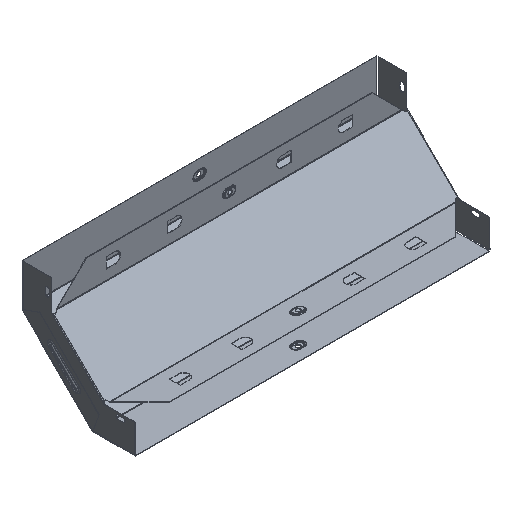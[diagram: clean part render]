
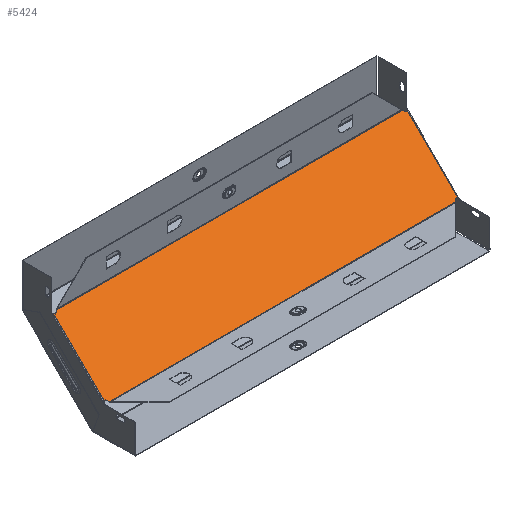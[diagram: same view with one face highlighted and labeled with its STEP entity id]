
A CAD part, isometric view. The second image highlights one B-rep face of the part: STEP entity #5424.
In plain terms, the highlighted planar face has unit normal (0, -0.707, 0.707).
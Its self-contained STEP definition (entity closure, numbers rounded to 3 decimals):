
#75 = VERTEX_POINT ( 'NONE', #3224 ) ;
#76 = ORIENTED_EDGE ( 'NONE', *, *, #8556, .T. ) ;
#132 = VECTOR ( 'NONE', #7763, 1000. ) ;
#236 = CARTESIAN_POINT ( 'NONE',  ( -241.546, -55.512, -105.512 ) ) ;
#495 = CARTESIAN_POINT ( 'NONE',  ( -300.299, 69.208, 19.208 ) ) ;
#865 = VECTOR ( 'NONE', #7565, 1000. ) ;
#885 = CARTESIAN_POINT ( 'NONE',  ( 298.2, -19.707, -69.707 ) ) ;
#913 = CARTESIAN_POINT ( 'NONE',  ( 298.2, 67.724, 17.724 ) ) ;
#979 = VECTOR ( 'NONE', #7471, 1000. ) ;
#1033 = PLANE ( 'NONE',  #1987 ) ;
#1038 = DIRECTION ( 'NONE',  ( -0.707, 0.5, 0.5 ) ) ;
#1266 = VECTOR ( 'NONE', #8157, 1000. ) ;
#1652 = ORIENTED_EDGE ( 'NONE', *, *, #7755, .T. ) ;
#1757 = EDGE_CURVE ( 'NONE', #7645, #75, #6151, .T. ) ;
#1812 = CARTESIAN_POINT ( 'NONE',  ( 298.2, -17.724, -67.724 ) ) ;
#1880 = VERTEX_POINT ( 'NONE', #2062 ) ;
#1987 = AXIS2_PLACEMENT_3D ( 'NONE', #6310, #6971, #7662 ) ;
#2062 = CARTESIAN_POINT ( 'NONE',  ( -298.2, 67.724, 17.724 ) ) ;
#2131 = CARTESIAN_POINT ( 'NONE',  ( -300.299, -19.208, -69.208 ) ) ;
#2162 = VECTOR ( 'NONE', #3850, 1000. ) ;
#2219 = DIRECTION ( 'NONE',  ( 0.707, 0.5, 0.5 ) ) ;
#2234 = VERTEX_POINT ( 'NONE', #2466 ) ;
#2238 = CARTESIAN_POINT ( 'NONE',  ( 296.592, -16.588, -66.588 ) ) ;
#2299 = CARTESIAN_POINT ( 'NONE',  ( -296.592, 66.588, 16.588 ) ) ;
#2384 = VERTEX_POINT ( 'NONE', #8727 ) ;
#2466 = CARTESIAN_POINT ( 'NONE',  ( -292.181, 69.707, 19.707 ) ) ;
#2639 = LINE ( 'NONE', #3125, #3581 ) ;
#2648 = CARTESIAN_POINT ( 'NONE',  ( 300.299, 69.208, 19.208 ) ) ;
#2876 = LINE ( 'NONE', #8227, #979 ) ;
#2891 = VERTEX_POINT ( 'NONE', #4668 ) ;
#2894 = EDGE_CURVE ( 'NONE', #75, #5773, #2876, .T. ) ;
#2980 = EDGE_CURVE ( 'NONE', #2891, #3664, #5613, .T. ) ;
#3055 = CARTESIAN_POINT ( 'NONE',  ( 298.2, 69.707, 19.707 ) ) ;
#3125 = CARTESIAN_POINT ( 'NONE',  ( -298.2, 70., 20. ) ) ;
#3203 = EDGE_CURVE ( 'NONE', #2234, #3973, #4764, .T. ) ;
#3224 = CARTESIAN_POINT ( 'NONE',  ( 296.592, 66.588, 16.588 ) ) ;
#3319 = EDGE_LOOP ( 'NONE', ( #8735, #6392, #1652, #4210, #76, #7083, #6980, #4238, #3592, #5100, #8619, #6399 ) ) ;
#3581 = VECTOR ( 'NONE', #7809, 1000. ) ;
#3586 = EDGE_CURVE ( 'NONE', #2384, #8427, #8419, .T. ) ;
#3592 = ORIENTED_EDGE ( 'NONE', *, *, #5295, .F. ) ;
#3664 = VERTEX_POINT ( 'NONE', #8622 ) ;
#3701 = DIRECTION ( 'NONE',  ( -1., 0., 0. ) ) ;
#3850 = DIRECTION ( 'NONE',  ( -0.707, -0.5, -0.5 ) ) ;
#3923 = VECTOR ( 'NONE', #2219, 1000. ) ;
#3973 = VERTEX_POINT ( 'NONE', #2299 ) ;
#4030 = VECTOR ( 'NONE', #3701, 1000. ) ;
#4134 = CARTESIAN_POINT ( 'NONE',  ( 298.2, 70., 20. ) ) ;
#4180 = EDGE_CURVE ( 'NONE', #1880, #2891, #2639, .T. ) ;
#4210 = ORIENTED_EDGE ( 'NONE', *, *, #3203, .T. ) ;
#4238 = ORIENTED_EDGE ( 'NONE', *, *, #7993, .T. ) ;
#4432 = CARTESIAN_POINT ( 'NONE',  ( 241.546, -55.512, -105.512 ) ) ;
#4462 = EDGE_CURVE ( 'NONE', #8427, #6720, #4640, .T. ) ;
#4468 = VECTOR ( 'NONE', #7501, 1000. ) ;
#4535 = LINE ( 'NONE', #495, #8405 ) ;
#4640 = LINE ( 'NONE', #6949, #1266 ) ;
#4668 = CARTESIAN_POINT ( 'NONE',  ( -298.2, -17.724, -67.724 ) ) ;
#4764 = LINE ( 'NONE', #7356, #8311 ) ;
#4885 = DIRECTION ( 'NONE',  ( -1., 0., 0. ) ) ;
#4905 = FACE_OUTER_BOUND ( 'NONE', #3319, .T. ) ;
#5100 = ORIENTED_EDGE ( 'NONE', *, *, #3586, .T. ) ;
#5295 = EDGE_CURVE ( 'NONE', #2384, #7978, #7196, .T. ) ;
#5379 = DIRECTION ( 'NONE',  ( -0.707, -0.5, -0.5 ) ) ;
#5424 = ADVANCED_FACE ( 'NONE', ( #4905 ), #1033, .F. ) ;
#5429 = VECTOR ( 'NONE', #4885, 1000. ) ;
#5613 = LINE ( 'NONE', #2131, #3923 ) ;
#5773 = VERTEX_POINT ( 'NONE', #8258 ) ;
#6151 = LINE ( 'NONE', #2648, #2162 ) ;
#6213 = CARTESIAN_POINT ( 'NONE',  ( -292.181, -19.707, -69.707 ) ) ;
#6310 = CARTESIAN_POINT ( 'NONE',  ( 298.2, 70., 20. ) ) ;
#6317 = LINE ( 'NONE', #236, #865 ) ;
#6392 = ORIENTED_EDGE ( 'NONE', *, *, #2894, .T. ) ;
#6399 = ORIENTED_EDGE ( 'NONE', *, *, #7002, .F. ) ;
#6720 = VERTEX_POINT ( 'NONE', #1812 ) ;
#6760 = LINE ( 'NONE', #4134, #4468 ) ;
#6949 = CARTESIAN_POINT ( 'NONE',  ( 300.299, -19.208, -69.208 ) ) ;
#6971 = DIRECTION ( 'NONE',  ( 0., 0.707, -0.707 ) ) ;
#6980 = ORIENTED_EDGE ( 'NONE', *, *, #2980, .T. ) ;
#7002 = EDGE_CURVE ( 'NONE', #7645, #6720, #6760, .T. ) ;
#7083 = ORIENTED_EDGE ( 'NONE', *, *, #4180, .T. ) ;
#7196 = LINE ( 'NONE', #885, #5429 ) ;
#7356 = CARTESIAN_POINT ( 'NONE',  ( -241.546, 105.512, 55.512 ) ) ;
#7471 = DIRECTION ( 'NONE',  ( -0.707, 0.5, 0.5 ) ) ;
#7501 = DIRECTION ( 'NONE',  ( 0., -0.707, -0.707 ) ) ;
#7565 = DIRECTION ( 'NONE',  ( 0.707, -0.5, -0.5 ) ) ;
#7645 = VERTEX_POINT ( 'NONE', #913 ) ;
#7662 = DIRECTION ( 'NONE',  ( 0., 0.707, 0.707 ) ) ;
#7755 = EDGE_CURVE ( 'NONE', #5773, #2234, #8537, .T. ) ;
#7763 = DIRECTION ( 'NONE',  ( 0.707, 0.5, 0.5 ) ) ;
#7809 = DIRECTION ( 'NONE',  ( 0., -0.707, -0.707 ) ) ;
#7978 = VERTEX_POINT ( 'NONE', #6213 ) ;
#7993 = EDGE_CURVE ( 'NONE', #3664, #7978, #6317, .T. ) ;
#8157 = DIRECTION ( 'NONE',  ( 0.707, -0.5, -0.5 ) ) ;
#8227 = CARTESIAN_POINT ( 'NONE',  ( 241.546, 105.512, 55.512 ) ) ;
#8258 = CARTESIAN_POINT ( 'NONE',  ( 292.181, 69.707, 19.707 ) ) ;
#8311 = VECTOR ( 'NONE', #5379, 1000. ) ;
#8405 = VECTOR ( 'NONE', #1038, 1000. ) ;
#8419 = LINE ( 'NONE', #4432, #132 ) ;
#8427 = VERTEX_POINT ( 'NONE', #2238 ) ;
#8537 = LINE ( 'NONE', #3055, #4030 ) ;
#8556 = EDGE_CURVE ( 'NONE', #3973, #1880, #4535, .T. ) ;
#8619 = ORIENTED_EDGE ( 'NONE', *, *, #4462, .T. ) ;
#8622 = CARTESIAN_POINT ( 'NONE',  ( -296.592, -16.588, -66.588 ) ) ;
#8727 = CARTESIAN_POINT ( 'NONE',  ( 292.181, -19.707, -69.707 ) ) ;
#8735 = ORIENTED_EDGE ( 'NONE', *, *, #1757, .T. ) ;
